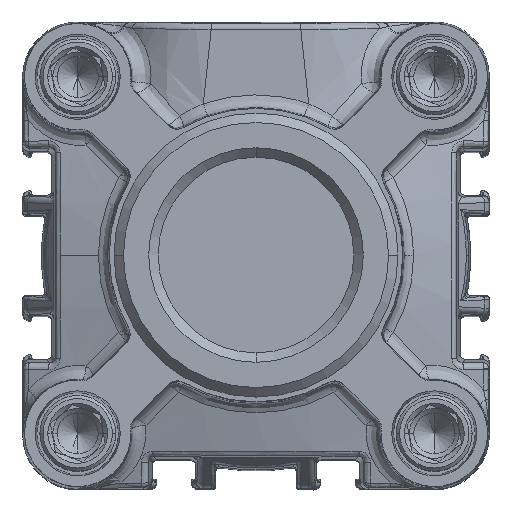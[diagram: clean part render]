
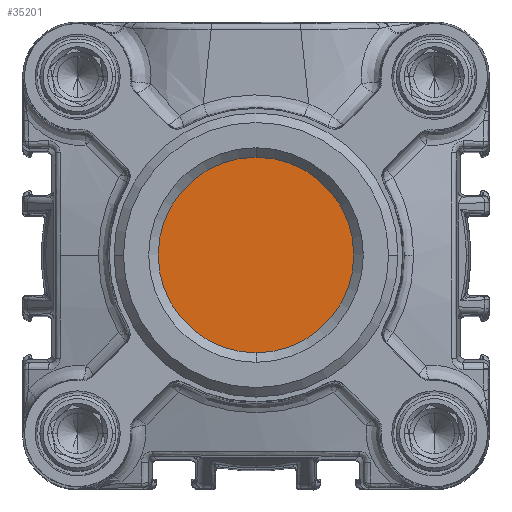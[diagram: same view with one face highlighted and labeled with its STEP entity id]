
A CAD part, top view. The second image highlights one B-rep face of the part: STEP entity #35201.
In plain terms, the highlighted planar face has unit normal (0, 0, 1).
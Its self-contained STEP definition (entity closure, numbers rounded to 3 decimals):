
#283 = CARTESIAN_POINT ( 'NONE',  ( 0., 0., 38.5 ) ) ;
#284 = DIRECTION ( 'NONE',  ( 0., 0., -1. ) ) ;
#285 = DIRECTION ( 'NONE',  ( 0., -1., 0. ) ) ;
#8841 = CARTESIAN_POINT ( 'NONE',  ( 0., 0., 38.5 ) ) ;
#8842 = DIRECTION ( 'NONE',  ( 0., 0., -1. ) ) ;
#8843 = DIRECTION ( 'NONE',  ( 0., -1., 0. ) ) ;
#11706 = EDGE_LOOP ( 'NONE', ( #59906, #59907 ) ) ;
#16497 = VERTEX_POINT ( 'NONE', #40627 ) ;
#16502 = VERTEX_POINT ( 'NONE', #40635 ) ;
#22221 = EDGE_CURVE ( 'NONE', #16497, #16502, #23394, .T. ) ;
#23394 = CIRCLE ( 'NONE', #46116, 15.5 ) ;
#23646 = FACE_OUTER_BOUND ( 'NONE', #11706, .T. ) ;
#25182 = AXIS2_PLACEMENT_3D ( 'NONE', #283, #284, #285 ) ;
#35201 = ADVANCED_FACE ( 'NONE', ( #23646 ), #58031, .T. ) ;
#40591 = EDGE_CURVE ( 'NONE', #16502, #16497, #52317, .T. ) ;
#40627 = CARTESIAN_POINT ( 'NONE',  ( 0., -15.5, 38.5 ) ) ;
#40635 = CARTESIAN_POINT ( 'NONE',  ( 0., 15.5, 38.5 ) ) ;
#46116 = AXIS2_PLACEMENT_3D ( 'NONE', #8841, #8842, #8843 ) ;
#46591 = AXIS2_PLACEMENT_3D ( 'NONE', #58030, #58048, #58049 ) ;
#52317 = CIRCLE ( 'NONE', #25182, 15.5 ) ;
#58030 = CARTESIAN_POINT ( 'NONE',  ( -15.686, -15.686, 38.5 ) ) ;
#58031 = PLANE ( 'NONE',  #46591 ) ;
#58048 = DIRECTION ( 'NONE',  ( 0., 0., 1. ) ) ;
#58049 = DIRECTION ( 'NONE',  ( 1., 0., 0. ) ) ;
#59906 = ORIENTED_EDGE ( 'NONE', *, *, #22221, .F. ) ;
#59907 = ORIENTED_EDGE ( 'NONE', *, *, #40591, .F. ) ;
